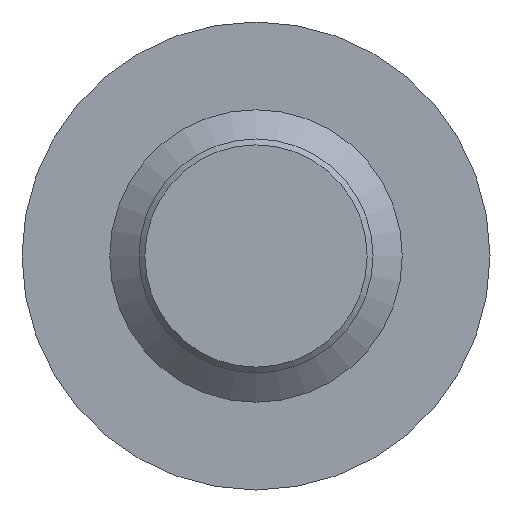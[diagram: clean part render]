
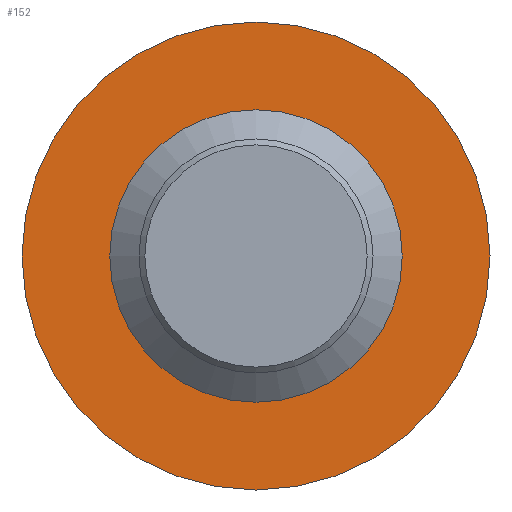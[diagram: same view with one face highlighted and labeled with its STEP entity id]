
A CAD part, front view. The second image highlights one B-rep face of the part: STEP entity #152.
In plain terms, the highlighted planar face has unit normal (0, -1, 0).
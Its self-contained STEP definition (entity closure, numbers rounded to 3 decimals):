
#15=FACE_BOUND('',#57,.T.);
#21=PLANE('',#195);
#45=FACE_OUTER_BOUND('',#56,.T.);
#56=EDGE_LOOP('',(#129));
#57=EDGE_LOOP('',(#130));
#67=CIRCLE('',#186,8.);
#72=CIRCLE('',#196,4.25);
#79=VERTEX_POINT('',#270);
#84=VERTEX_POINT('',#288);
#93=EDGE_CURVE('',#79,#79,#67,.T.);
#100=EDGE_CURVE('',#84,#84,#72,.T.);
#129=ORIENTED_EDGE('',*,*,#93,.F.);
#130=ORIENTED_EDGE('',*,*,#100,.F.);
#152=ADVANCED_FACE('',(#45,#15),#21,.F.);
#186=AXIS2_PLACEMENT_3D('',#272,#219,#220);
#195=AXIS2_PLACEMENT_3D('',#287,#239,#240);
#196=AXIS2_PLACEMENT_3D('',#289,#241,#242);
#219=DIRECTION('center_axis',(0.,1.,0.));
#220=DIRECTION('ref_axis',(1.,0.,0.));
#239=DIRECTION('center_axis',(0.,1.,0.));
#240=DIRECTION('ref_axis',(0.,0.,1.));
#241=DIRECTION('center_axis',(0.,-1.,0.));
#242=DIRECTION('ref_axis',(1.,0.,0.));
#270=CARTESIAN_POINT('',(-8.,46.6,0.));
#272=CARTESIAN_POINT('Origin',(0.,46.6,0.));
#287=CARTESIAN_POINT('Origin',(0.,46.6,0.));
#288=CARTESIAN_POINT('',(-4.25,46.6,0.));
#289=CARTESIAN_POINT('Origin',(0.,46.6,0.));
